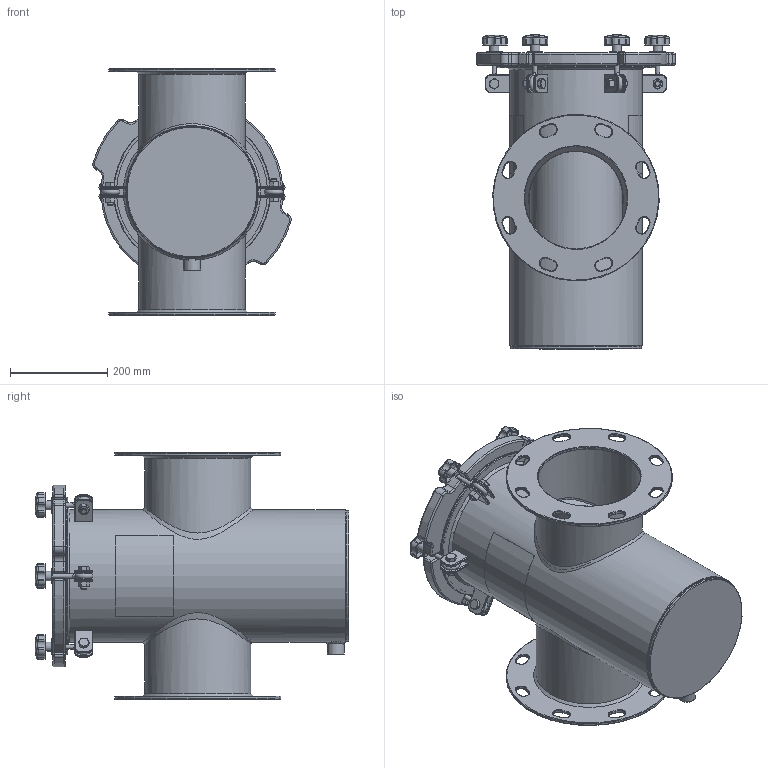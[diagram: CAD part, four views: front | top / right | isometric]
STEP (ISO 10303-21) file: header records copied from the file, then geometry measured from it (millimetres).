
FILE_DESCRIPTION(/* description */ ('10 3/4" STRAINER BODY'),/* implementation_level */ '2;1');
FILE_NAME(/* name */ 'X:\WIP\Ready for delivery - Do not Disturb -Updated with metric Flange\Workspace\SS Straight\150NBSTL08.stp',/* time_stamp */ '2016-09-29T19:56:14+05:00',/* author */ ('20093558'),/* organization */ (''),/* preprocessor_version */ 'ST-DEVELOPER v16.1',/* originating_system */ 'Autodesk Inventor 2016',/* authorisation */ '');
FILE_SCHEMA (('AUTOMOTIVE_DESIGN { 1 0 10303 214 3 1 1 }'));
Length unit declared in the file: inch
Products named in the file (28): NBSSBODY08_Welds; FOR NBSSBODY08; FOR 10 3(_FS)4 DIA STRAINER BODY; FOR 10 3(_FS)4 DIA STRAINER BODY_1; 10 3(_FS)4 Body; ConcentricPipe-8(_DQ); 8(_DQ); For 10 3(_FS)4 Body; ASME B16.11 Half Coupling Threaded - Class 3000 3_4 x 3_4; 10 3(_FS)4 Body_1; NBSSBODY08; 150NBCVR48R1; 150NBGSK48R1; Perforated Basket 10in; Bride (Ring) 10in; Baffle 10in; Handle 10in; Bottom Strainer 10in; NBBSK08T316; Nut- 1_2  UNC; Bolt-1_2 x 1 1_2  UNC; EyeBolt; Washer; Knob M10; Securing Assembly without Brace; Label for 10.75 inch (Right); Label for 10.75 inch (Left); Guardian SS H&L Strainer (Inch)
Assembly tree (48 placements, depth 3):
  Guardian SS H&L Strainer (Inch)
    NBSSBODY08
      NBSSBODY08_Welds
      FOR NBSSBODY08
      FOR 10 3(_FS)4 DIA STRAINER BODY
      FOR 10 3(_FS)4 DIA STRAINER BODY_1
      10 3(_FS)4 Body  x4
      ConcentricPipe-8(_DQ)  x2
      8(_DQ)  x2
      For 10 3(_FS)4 Body
      ASME B16.11 Half Coupling Threaded - Class 3000 3_4 x 3_4
      10 3(_FS)4 Body_1  x12
    150NBCVR48R1
    150NBGSK48R1
    NBBSK08T316
      Perforated Basket 10in
      Bride (Ring) 10in
      Baffle 10in
      Handle 10in
      Bottom Strainer 10in
    Securing Assembly without Brace  x6
      Nut- 1_2  UNC
      Bolt-1_2 x 1 1_2  UNC
      EyeBolt
      Washer
      Knob M10
    Label for 10.75 inch (Right)
    Label for 10.75 inch (Left)
Bounding box: 408.57 x 646.2 x 508 mm (x, y, z)
Volume: 7292297.5 mm3; surface area: 2922383.1 mm2
Topology: 79 solids, 79 shells, 1686 faces, 3743 edges, 2203 vertices
Faces by surface type: cylinder 600, plane 458, torus 302, cone 143, bspline 93, sphere 90
Full cylindrical faces by diameter (mm): 3.175 x10, 6.35 x1, 8.382 x6, 9.525 x12, 10.592 x6, 12.7 x6, 15.875 x12, 19 x12, 19.05 x6, 22.8 x1, 22.809 x1, 31.75 x6, 35.052 x1, 187.325 x2, 190.5 x1, 193.04 x1, 211.137 x2, 213.517 x4, 219.075 x6, 264.716 x3, 266.7 x1, 269.875 x2, 273.05 x2, 276.225 x1, 311.15 x1, 317.5 x1, 323.85 x1, 342.9 x2
Entity records: 26704 total; most frequent: CARTESIAN_POINT 9833, DIRECTION 3649, ORIENTED_EDGE 3000, AXIS2_PLACEMENT_3D 1542, EDGE_CURVE 1500, VERTEX_POINT 948, EDGE_LOOP 868, CIRCLE 743
